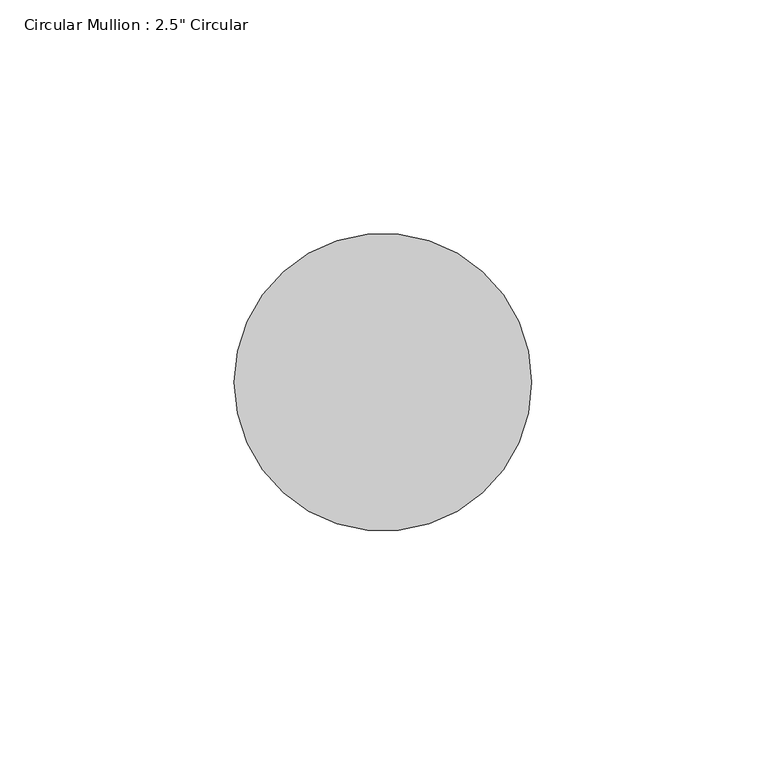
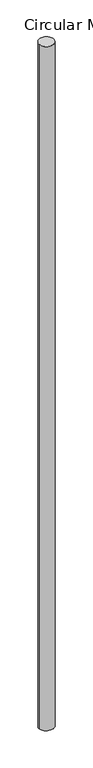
"""IFC4 building model written with IfcOpenShell, lengths in millimetres: member geometry."""

import ifcopenshell
import ifcopenshell.guid

model = None  # the IFC model being written
_history = None  # IfcOwnerHistory: only IFC2X3 demands one
_inside = {}  # id of a spatial element -> (the spatial element, [elements in it])
_under = {}  # id of a project, library or spatial element -> (it, [spatial elements below it])
_declared = {}  # id of a project -> (the project, [libraries it declares])
_typed = {}  # id of a type object -> (the type object, [elements of that type])
_made_of = {}  # id of a material, layer set ... -> (it, [elements and type objects made of it])


def new_model(schema):
    """Start an empty IFC model of exactly this schema.

    Asked for "IFC4X3", IfcOpenShell would pick the latest addendum, in which some entities
    have other attributes; the version numbers below select the first issue.
    IFC2X3 requires an IfcOwnerHistory on every rooted entity: one is made here for all.
    """
    global model, _history
    if schema == "IFC4X3":
        model = ifcopenshell.file(schema_version=(4, 3, 0, 0))
    else:
        model = ifcopenshell.file(schema=schema)
    _inside.clear()
    _under.clear()
    _declared.clear()
    _typed.clear()
    _made_of.clear()
    _history = None
    if model.schema == "IFC2X3":
        org = make("IfcOrganization", Name="unknown")
        user = make(
            "IfcPersonAndOrganization",
            ThePerson=make("IfcPerson", FamilyName="unknown"),
            TheOrganization=org,
        )
        app = make(
            "IfcApplication",
            ApplicationDeveloper=org,
            Version="unknown",
            ApplicationFullName="unknown",
            ApplicationIdentifier="unknown",
        )
        _history = make(
            "IfcOwnerHistory",
            OwningUser=user,
            OwningApplication=app,
            ChangeAction="ADDED",
            CreationDate=0,
        )
    return model


def make(cls, **values):
    """One entity of the class cls with the attributes given. An attribute that is None is left unset."""
    return model.create_entity(
        cls, **{name: value for name, value in values.items() if value is not None}
    )


def rooted(cls, **values):
    """An entity with a GlobalId (a new one), such as an element, a storey or a relation."""
    return make(cls, GlobalId=ifcopenshell.guid.new(), OwnerHistory=_history, **values)


def si_unit(unit_type, name, prefix=None):
    """IfcSIUnit, for example si_unit("LENGTHUNIT", "METRE", prefix="MILLI")."""
    return make("IfcSIUnit", UnitType=unit_type, Prefix=prefix, Name=name)


def assignment(units):
    """IfcUnitAssignment: the units of a project."""
    return None if units is None else make("IfcUnitAssignment", Units=units)


def point(xyz):
    """IfcCartesianPoint."""
    return None if xyz is None else make("IfcCartesianPoint", Coordinates=xyz)


def direction(xyz):
    """IfcDirection."""
    return None if xyz is None else make("IfcDirection", DirectionRatios=xyz)


def frame(location, z_axis=None, x_axis=None):
    """IfcAxis2Placement3D, a coordinate frame: its origin and axes. An axis left out is left unset."""
    return make(
        "IfcAxis2Placement3D",
        Location=point(location),
        Axis=direction(z_axis),
        RefDirection=direction(x_axis),
    )


def origin():
    """The frame at (0, 0, 0) with its axes left unset."""
    return frame((0.0, 0.0, 0.0))


def origin_with_axes():
    """The frame at (0, 0, 0) with the z axis (0, 0, 1) and the x axis (1, 0, 0) written out."""
    return frame((0.0, 0.0, 0.0), z_axis=(0.0, 0.0, 1.0), x_axis=(1.0, 0.0, 0.0))


def place(relative_to, where):
    """IfcLocalPlacement: puts the frame where relative to a parent placement (None: the world)."""
    return make(
        "IfcLocalPlacement", PlacementRelTo=relative_to, RelativePlacement=where
    )


def context(
    kind, dimensions, precision=None, world=None, true_north=None, identifier=None
):
    """IfcGeometricRepresentationContext, for example the 3D "Model" context."""
    return make(
        "IfcGeometricRepresentationContext",
        ContextIdentifier=identifier,
        ContextType=kind,
        CoordinateSpaceDimension=dimensions,
        Precision=precision,
        WorldCoordinateSystem=world,
        TrueNorth=true_north,
    )


def project(units=None, contexts=None):
    """IfcProject with its units and contexts."""
    return rooted(
        "IfcProject",
        Name="project",
        RepresentationContexts=contexts,
        UnitsInContext=assignment(units),
    )


def spatial(cls, under=None, at=None, **own):
    """A site, building, storey or space (cls), placed at a placement, below another one or the project."""
    s = rooted(cls, ObjectPlacement=at, **own)
    if under is not None:
        _under.setdefault(under.id(), (under, []))[1].append(s)
    return s


def circle_curve(where, radius):
    """IfcCircle in the frame where."""
    return make("IfcCircle", Position=where, Radius=radius)


def ellipse_curve(where, semi_axis1, semi_axis2):
    """IfcEllipse in the frame where."""
    return make(
        "IfcEllipse", Position=where, SemiAxis1=semi_axis1, SemiAxis2=semi_axis2
    )


def shape(context_of_items, identifier, shape_type, items):
    """IfcShapeRepresentation: the items that make up one representation, for example the "Body"."""
    return make(
        "IfcShapeRepresentation",
        ContextOfItems=context_of_items,
        RepresentationIdentifier=identifier,
        RepresentationType=shape_type,
        Items=items,
    )


def source(mapping_origin, context_of_items, identifier, shape_type, items):
    """IfcRepresentationMap: a shape defined once, which mapped items show again and again."""
    return make(
        "IfcRepresentationMap",
        MappingOrigin=mapping_origin,
        MappedRepresentation=shape(context_of_items, identifier, shape_type, items),
    )


def transform(
    local_origin,
    x_axis=None,
    y_axis=None,
    z_axis=None,
    scale=None,
    scale2=None,
    scale3=None,
    uniform=True,
):
    """IfcCartesianTransformationOperator3D, or its non-uniform kind. x_axis, y_axis, z_axis: its Axis1, 2, 3."""
    if uniform:
        return make(
            "IfcCartesianTransformationOperator3D",
            Axis1=direction(x_axis),
            Axis2=direction(y_axis),
            LocalOrigin=point(local_origin),
            Scale=scale,
            Axis3=direction(z_axis),
        )
    return make(
        "IfcCartesianTransformationOperator3DnonUniform",
        Axis1=direction(x_axis),
        Axis2=direction(y_axis),
        LocalOrigin=point(local_origin),
        Scale=scale,
        Axis3=direction(z_axis),
        Scale2=scale2,
        Scale3=scale3,
    )


def mapped(mapping_source, mapping_target):
    """IfcMappedItem: shows the shape of a source again, moved by a transform."""
    return make(
        "IfcMappedItem", MappingSource=mapping_source, MappingTarget=mapping_target
    )


def made_of(thing, what):
    """Note that an element or type object is made of a material, layer set ...; save() writes the relation."""
    if what is not None:
        _made_of.setdefault(what.id(), (what, []))[1].append(thing)
    return thing


def element(
    cls,
    number,
    at=None,
    inside=None,
    cuts=None,
    type_object=None,
    material=None,
    context=None,
    identifier="Body",
    shape_type=None,
    held_by="IfcProductDefinitionShape",
    body=None,
    shapes=None,
    **own,
):
    """One element of the class cls, such as IfcWall. Its Tag is "e" and its number.

    at: its placement. inside: the storey or other place that contains it. cuts: it is an
    opening in that element (IfcRelVoidsElement). A single representation is given by context,
    identifier, shape_type and body (its items); several are given by shapes. held_by: the class
    of the entity that holds the representations. save() writes the other relations.
    """
    e = rooted(cls, Tag="e%d" % number, ObjectPlacement=at, **own)
    if body is not None:
        shapes = [shape(context, identifier, shape_type, body)]
    if shapes is not None:
        e.Representation = make(held_by, Representations=shapes)
    if inside is not None:
        _inside.setdefault(inside.id(), (inside, []))[1].append(e)
    if cuts is not None:
        rooted(
            "IfcRelVoidsElement", RelatingBuildingElement=cuts, RelatedOpeningElement=e
        )
    if type_object is not None:
        _typed.setdefault(type_object.id(), (type_object, []))[1].append(e)
    return made_of(e, material)


def aggregate(whole, parts):
    """IfcRelAggregates: a whole, such as a stair, and the parts it consists of."""
    return rooted("IfcRelAggregates", RelatingObject=whole, RelatedObjects=parts)


def save(model, path):
    """Write the relations noted so far, then the file.

    IfcRelAggregates (storeys below a building ...), IfcRelContainedInSpatialStructure (elements
    in a storey), IfcRelDefinesByType, IfcRelAssociatesMaterial and IfcRelDeclares: one each for
    every whole, place, type object, material and project.
    """
    for whole, parts in _under.values():
        aggregate(whole, parts)
    for where, things in _inside.values():
        rooted(
            "IfcRelContainedInSpatialStructure",
            RelatedElements=things,
            RelatingStructure=where,
        )
    for kind, things in _typed.values():
        rooted("IfcRelDefinesByType", RelatedObjects=things, RelatingType=kind)
    for what, things in _made_of.values():
        rooted("IfcRelAssociatesMaterial", RelatedObjects=things, RelatingMaterial=what)
    for by, libraries in _declared.values():
        rooted("IfcRelDeclares", RelatingContext=by, RelatedDefinitions=libraries)
    model.write(path)


def plane_surface(at):
    """IfcPlane: the flat surface through the origin of the frame at, square to its z axis."""
    return make("IfcPlane", Position=at)


def cylinder_surface(at, radius):
    """IfcCylindricalSurface: all points at the distance radius from the z axis of the frame at."""
    return make("IfcCylindricalSurface", Position=at, Radius=radius)


def advanced_brep(points, edges, surfaces, faces):
    """IfcAdvancedBrep: a solid bounded by faces that lie on surfaces and meet in shared edges.

    An edge is (start, end): straight between two places in points (the first is 0);
    or (start, end, curve); or (start, end, curve, False) where it runs against its curve.
    A face is (place in surfaces, loops), or (place, loops, False) where it looks against
    its surface's normal. A loop lists edges by number (the first is 1), with a minus sign
    where the edge is run from its end to its start. The first loop is the outer one.
    """
    corners = [point(p) for p in points]
    vertices = [make("IfcVertexPoint", VertexGeometry=c) for c in corners]
    made = []
    for start, end, *more in edges:
        made.append(
            make(
                "IfcEdgeCurve",
                EdgeStart=vertices[start],
                EdgeEnd=vertices[end],
                EdgeGeometry=more[0] if more else make("IfcPolyline", Points=[corners[start], corners[end]]),
                SameSense=more[1] if len(more) > 1 else True,
            )
        )
    hull = []
    for where, loops, *sense in faces:
        bounds = []
        for j, loop in enumerate(loops):
            ring = [make("IfcOrientedEdge", EdgeElement=made[abs(k) - 1], Orientation=k > 0) for k in loop]
            bounds.append(
                make(
                    "IfcFaceOuterBound" if j == 0 else "IfcFaceBound",
                    Bound=make("IfcEdgeLoop", EdgeList=ring),
                    Orientation=True,
                )
            )
        hull.append(make("IfcAdvancedFace", Bounds=bounds, FaceSurface=surfaces[where], SameSense=sense[0] if sense else True))
    return make("IfcAdvancedBrep", Outer=make("IfcClosedShell", CfsFaces=hull))


def member_6ad659f1(model_context):
    return source(origin(), model_context, "Body", "AdvancedBrep", [
        advanced_brep(
        [(31.75, 0.0, 0.0), (-31.75, 0.0, 0.0), (31.75, 0.0, -3066.6970581), (-31.75, 0.0, -3067.4465476)],
        [
            (0, 1, circle_curve(origin_with_axes(), 31.75)),
            (1, 0, circle_curve(origin_with_axes(), 31.75)),
            (0, 2),
            (2, 3, ellipse_curve(frame((0.0, 0.0, -3067.0718028), z_axis=(-0.011788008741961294, 0.04895917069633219, 0.9987312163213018), x_axis=(0.23378577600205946, -0.97098313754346, 0.050358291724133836)), 31.7903351, 31.75)),
            (3, 1),
            (3, 2, ellipse_curve(frame((0.0, 0.0, -3067.0718028), z_axis=(-0.011788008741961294, 0.04895917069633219, 0.9987312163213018), x_axis=(0.23378577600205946, -0.97098313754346, 0.050358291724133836)), 31.7903351, 31.75)),
        ],
        [
            plane_surface(frame((0.0, -31.75, 0.0), z_axis=(0.0, 0.0, 1.0), x_axis=(-1.0, 0.0, 0.0))),
            cylinder_surface(origin_with_axes(), 31.75),
            plane_surface(frame((296.3316411, 71.3484302, -3067.0718028), z_axis=(0.011788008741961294, -0.04895917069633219, -0.9987312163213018), x_axis=(0.23378577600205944, -0.97098313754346, 0.05035829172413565))),
        ],
        [
            (0, [[1, 2]]),
            (1, [[-1, 3, 4, 5]]),
            (1, [[-2, -5, 6, -3]]),
            (2, [[-6, -4]]),
        ],
    ),
    ])


if __name__ == "__main__":
    model = new_model("IFC4")
    model_context = context("Model", 3, world=origin())
    ifc_project = project(units=[si_unit("LENGTHUNIT", "METRE", prefix="MILLI")], contexts=[model_context])
    site = spatial("IfcSite", under=ifc_project)
    building = spatial("IfcBuilding", under=site)
    placement = place(None, origin())
    member_shape = member_6ad659f1(model_context)
    element("IfcMember", 1, ObjectType="Circular Mullion : 2.5\" Circular", at=placement, inside=building, context=model_context, shape_type="MappedRepresentation", body=[
        mapped(member_shape, transform((0.0, 0.0, 0.0), x_axis=(1.0, 0.0, 0.0), y_axis=(0.0, 1.0, 0.0), z_axis=(0.0, 0.0, 1.0))),
    ])
    save(model, "model.ifc")
